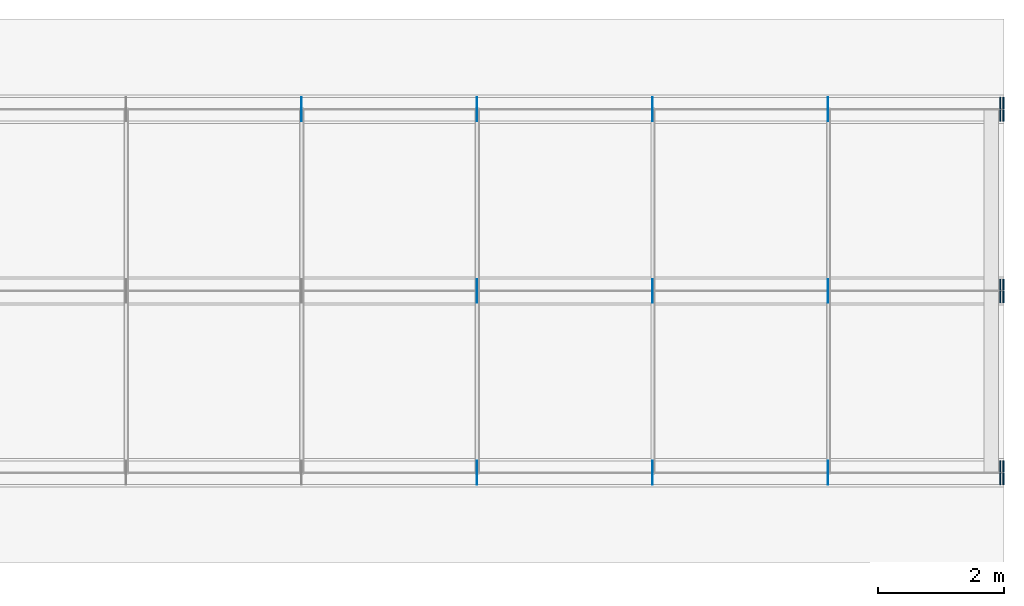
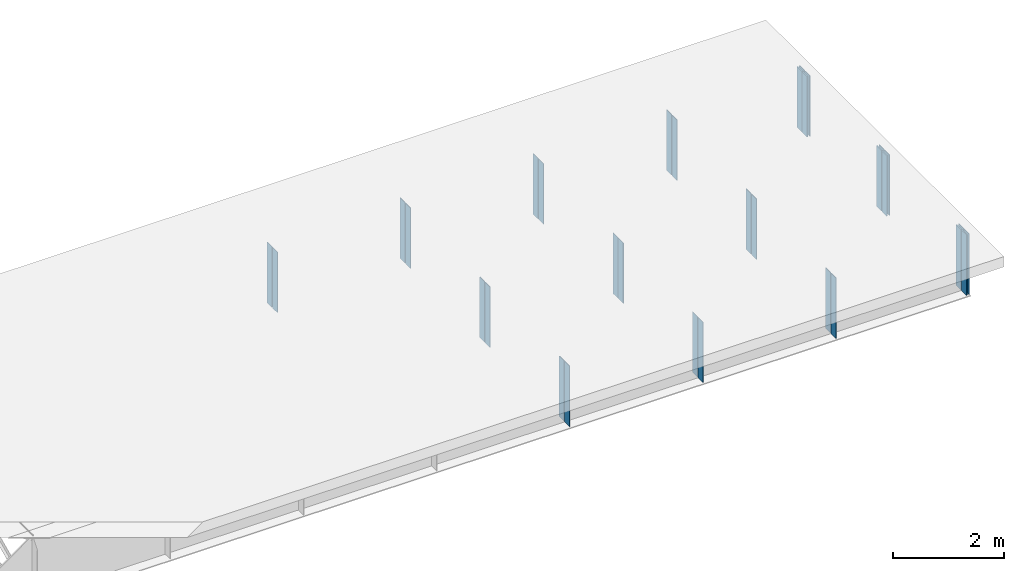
# One storey, part 8 of 8: 32 plates.
"""IFC4 building model written with IfcOpenShell, lengths in metres."""

from ifc_helpers import new_model, si_unit, frame, origin, origin_with_axes, origin_2d_with_axis, place, context, subcontext, project, spatial, rectangle, extrude, element, save


model = new_model("IFC4")

# Units and contexts
model_context = context("Model", 3, precision=1e-05, world=origin())
body_context = subcontext(model_context, "Body", "Model", "MODEL_VIEW")
ifc_project = project(units=[si_unit("LENGTHUNIT", "METRE"), si_unit("AREAUNIT", "SQUARE_METRE"), si_unit("VOLUMEUNIT", "CUBIC_METRE"), si_unit("PLANEANGLEUNIT", "RADIAN")], contexts=[model_context])

# Site, building, storey
site_placement = place(None, origin_with_axes())
site = spatial("IfcSite", under=ifc_project, at=site_placement, Name="Default Site")
building_placement = place(site_placement, origin_with_axes())
building = spatial("IfcBuilding", under=site, at=building_placement, Name="Bridge Structure")
storey_placement = place(building_placement, origin_with_axes())
storey = spatial("IfcBuildingStorey", under=building, at=storey_placement, Name="Superstructure")

# Plates
for number, where, z_axis, x_axis, name in (
    (1, (16.662, -2.77725, -0.6675), (0.0, 0.0, 1.0), (1.0, 0.0, 0.0), "Intermediate Stiffener 1"),
    (2, (16.662, -2.97275, -0.6675), (0.0, 0.0, 1.0), (1.0, 0.0, 0.0), "Intermediate Stiffener 1"),
    (3, (19.439, -2.77725, -0.6675), (0.0, 0.0, 1.0), (1.0, 0.0, 0.0), "Intermediate Stiffener 1"),
    (4, (19.439, -2.97275, -0.6675), (0.0, 0.0, 1.0), (1.0, 0.0, 0.0), "Intermediate Stiffener 1"),
    (5, (22.216, -2.77725, -0.6675), (0.0, 0.0, 1.0), (1.0, 0.0, 0.0), "Intermediate Stiffener 1"),
    (6, (22.216, -2.97275, -0.6675), (0.0, 0.0, 1.0), (1.0, 0.0, 0.0), "Intermediate Stiffener 1"),
):
    element("IfcPlate", number, at=place(storey_placement, frame(where, z_axis=z_axis, x_axis=x_axis)), inside=storey, Name=name, context=body_context, shape_type="SweptSolid", body=[
        extrude(rectangle(XDim=0.012, YDim=0.1795, at=origin_2d_with_axis()), origin_with_axes(), (0.0, 0.0, 1.0), 1.335),
    ])
for number, where, z_axis, x_axis, name in (
    (7, (24.990000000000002, -2.77725, -0.6675), (0.0, 0.0, 1.0), (1.0, 0.0, 0.0), "End Stiffener 1"),
    (8, (24.990000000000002, -2.97275, -0.6675), (0.0, 0.0, 1.0), (1.0, 0.0, 0.0), "End Stiffener 1"),
    (9, (24.94, -2.77725, -0.6675), (0.0, 0.0, 1.0), (1.0, 0.0, 0.0), "End Stiffener 1"),
    (10, (24.94, -2.97275, -0.6675), (0.0, 0.0, 1.0), (1.0, 0.0, 0.0), "End Stiffener 1"),
):
    element("IfcPlate", number, at=place(storey_placement, frame(where, z_axis=z_axis, x_axis=x_axis)), inside=storey, Name=name, context=body_context, shape_type="SweptSolid", body=[
        extrude(rectangle(XDim=0.02, YDim=0.1795, at=origin_2d_with_axis()), origin_with_axes(), (0.0, 0.0, 1.0), 1.335),
    ])
for number, where, z_axis, x_axis, name in (
    (11, (16.662, 0.09775, -0.6675), (0.0, 0.0, 1.0), (1.0, 0.0, 0.0), "Intermediate Stiffener 2"),
    (12, (16.662, -0.09775, -0.6675), (0.0, 0.0, 1.0), (1.0, 0.0, 0.0), "Intermediate Stiffener 2"),
    (13, (19.439, 0.09775, -0.6675), (0.0, 0.0, 1.0), (1.0, 0.0, 0.0), "Intermediate Stiffener 2"),
    (14, (19.439, -0.09775, -0.6675), (0.0, 0.0, 1.0), (1.0, 0.0, 0.0), "Intermediate Stiffener 2"),
    (15, (22.216, 0.09775, -0.6675), (0.0, 0.0, 1.0), (1.0, 0.0, 0.0), "Intermediate Stiffener 2"),
    (16, (22.216, -0.09775, -0.6675), (0.0, 0.0, 1.0), (1.0, 0.0, 0.0), "Intermediate Stiffener 2"),
):
    element("IfcPlate", number, at=place(storey_placement, frame(where, z_axis=z_axis, x_axis=x_axis)), inside=storey, Name=name, context=body_context, shape_type="SweptSolid", body=[
        extrude(rectangle(XDim=0.012, YDim=0.1795, at=origin_2d_with_axis()), origin_with_axes(), (0.0, 0.0, 1.0), 1.335),
    ])
for number, where, z_axis, x_axis, name in (
    (17, (24.990000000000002, 0.09775, -0.6675), (0.0, 0.0, 1.0), (1.0, 0.0, 0.0), "End Stiffener 2"),
    (18, (24.990000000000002, -0.09775, -0.6675), (0.0, 0.0, 1.0), (1.0, 0.0, 0.0), "End Stiffener 2"),
    (19, (24.94, 0.09775, -0.6675), (0.0, 0.0, 1.0), (1.0, 0.0, 0.0), "End Stiffener 2"),
    (20, (24.94, -0.09775, -0.6675), (0.0, 0.0, 1.0), (1.0, 0.0, 0.0), "End Stiffener 2"),
):
    element("IfcPlate", number, at=place(storey_placement, frame(where, z_axis=z_axis, x_axis=x_axis)), inside=storey, Name=name, context=body_context, shape_type="SweptSolid", body=[
        extrude(rectangle(XDim=0.02, YDim=0.1795, at=origin_2d_with_axis()), origin_with_axes(), (0.0, 0.0, 1.0), 1.335),
    ])
for number, where, z_axis, x_axis, name in (
    (21, (13.885, 2.97275, -0.6675), (0.0, 0.0, 1.0), (1.0, 0.0, 0.0), "Intermediate Stiffener 3"),
    (22, (13.885, 2.77725, -0.6675), (0.0, 0.0, 1.0), (1.0, 0.0, 0.0), "Intermediate Stiffener 3"),
    (23, (16.662, 2.97275, -0.6675), (0.0, 0.0, 1.0), (1.0, 0.0, 0.0), "Intermediate Stiffener 3"),
    (24, (16.662, 2.77725, -0.6675), (0.0, 0.0, 1.0), (1.0, 0.0, 0.0), "Intermediate Stiffener 3"),
    (25, (19.439, 2.97275, -0.6675), (0.0, 0.0, 1.0), (1.0, 0.0, 0.0), "Intermediate Stiffener 3"),
    (26, (19.439, 2.77725, -0.6675), (0.0, 0.0, 1.0), (1.0, 0.0, 0.0), "Intermediate Stiffener 3"),
    (27, (22.216, 2.97275, -0.6675), (0.0, 0.0, 1.0), (1.0, 0.0, 0.0), "Intermediate Stiffener 3"),
    (28, (22.216, 2.77725, -0.6675), (0.0, 0.0, 1.0), (1.0, 0.0, 0.0), "Intermediate Stiffener 3"),
):
    element("IfcPlate", number, at=place(storey_placement, frame(where, z_axis=z_axis, x_axis=x_axis)), inside=storey, Name=name, context=body_context, shape_type="SweptSolid", body=[
        extrude(rectangle(XDim=0.012, YDim=0.1795, at=origin_2d_with_axis()), origin_with_axes(), (0.0, 0.0, 1.0), 1.335),
    ])
for number, where, z_axis, x_axis, name in (
    (29, (24.990000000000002, 2.97275, -0.6675), (0.0, 0.0, 1.0), (1.0, 0.0, 0.0), "End Stiffener 3"),
    (30, (24.990000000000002, 2.77725, -0.6675), (0.0, 0.0, 1.0), (1.0, 0.0, 0.0), "End Stiffener 3"),
    (31, (24.94, 2.97275, -0.6675), (0.0, 0.0, 1.0), (1.0, 0.0, 0.0), "End Stiffener 3"),
    (32, (24.94, 2.77725, -0.6675), (0.0, 0.0, 1.0), (1.0, 0.0, 0.0), "End Stiffener 3"),
):
    element("IfcPlate", number, at=place(storey_placement, frame(where, z_axis=z_axis, x_axis=x_axis)), inside=storey, Name=name, context=body_context, shape_type="SweptSolid", body=[
        extrude(rectangle(XDim=0.02, YDim=0.1795, at=origin_2d_with_axis()), origin_with_axes(), (0.0, 0.0, 1.0), 1.335),
    ])

save(model, "model.ifc")
